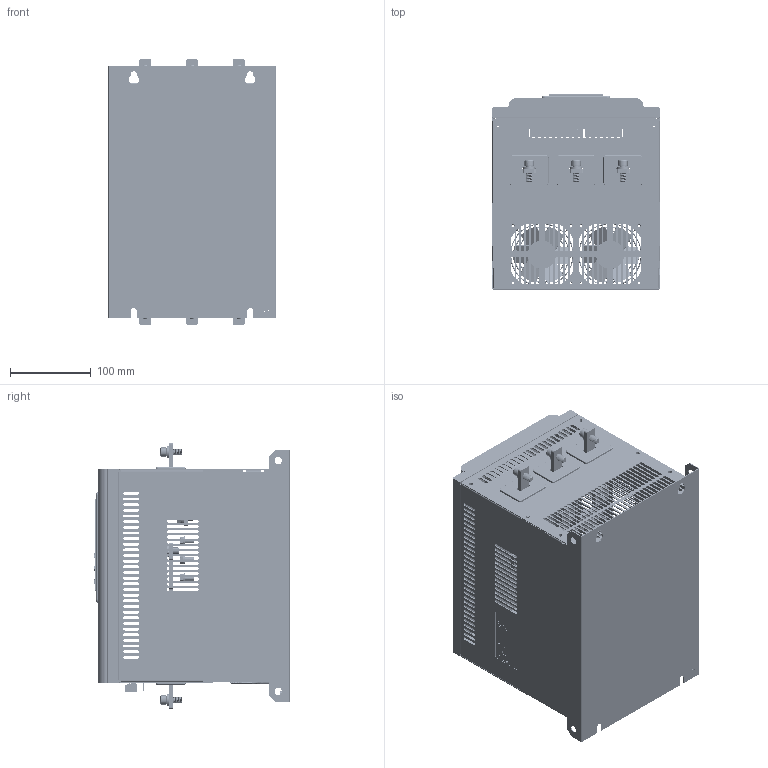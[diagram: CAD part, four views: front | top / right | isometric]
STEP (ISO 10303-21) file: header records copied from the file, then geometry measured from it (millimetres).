
FILE_DESCRIPTION((''),'2;1');
FILE_NAME('1-NJR5-55KW_ASM_ASM','2021-09-27T13:50:15',('ruanmm'),(''),'CREO PARAMETRIC BY PTC INC, 2020044','CREO PARAMETRIC BY PTC INC, 2020044','');
FILE_SCHEMA(('CONFIG_CONTROL_DESIGN','SHAPE_APPEARANCE_LAYERS_GROUPS'));
Products named in the file (114): NJR3-F2-WK-1__1; S-M4-2__1; NJR3-F1-E__1_1; NJR3-F1-E__1_2; NJR3-F1-E__1_ASM; NJR3-F3-WK-2-ASM_ASM_1_ASM; CHANGZHIJIA_2; CHANGZHIJIA_ASM_1_ASM; NJR3-F2-WK-1-ASM_ASM_1_ASM; S-M4-2__1_3; SOO-M3-8_4_2; FENGDAOBAN_ASM_39_ASM_4_ASM; FENGDAOBAN_ASM_ASM_3_ASM; FENGJIDANGBAN_2; 80FS-75ZX__1; FANZHAO92_1; FENGJIDANGBAN_ASM_2_ASM; NJR3-F2-WK-1__ASM_2_ASM; NJR3-F2-CEB1-2__7; NJR-F2-CEB1-2_ASM_1_ASM; NJR3-F2-CEB1-1__9; NJR3-F2-CEB1-1_ASM_2_ASM; NJR3-F2-JUEYD-1__1; SO-35M3-10_1; TOP-PLATE-A-ASM_ASM_1_ASM; PCB-5-MENG_1_1; NJR-5-PCB-2_1_1; NJR5-QIAO-PCB-22_1_1; PTB750B-03-5-06-3----7-62-4P__2; PTB750B-03-12---5-08-12P__1_1_1; CPU-DIANYUANBAN-ASM_ASM_2-87986_ASM; CPU-DIANYUANBAN-ASM_ASM_2-95454_ASM; DYB-1_ASM_1_ASM; TOP-PLATE-A_ASM_1_ASM; TOP-PLATE-NEW_4_1_1; NED-PL-A_1_1_1; 048119__1_1_1; SHANGGAI-XIN__2_1_1_1_1_1_1; XSP__1_1_1_1_1_1_1; M3TONG__1_1_1_1_1_1_1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
Assembly tree (166 placements, depth 10):
  1-NJR5-55KW_ASM_ASM
    1-NJR5-55KW_ASM_20_ASM
      NJR5-JX_ASM_3_ASM
        NJR3-F2-WK-1__ASM_2_ASM
          NJR3-F2-WK-1-ASM_ASM_1_ASM
            NJR3-F3-WK-2-ASM_ASM_1_ASM
              NJR3-F2-WK-1__1
              S-M4-2__1  x10
              NJR3-F1-E__1_ASM
                NJR3-F1-E__1_1
                NJR3-F1-E__1_2
            CHANGZHIJIA_ASM_1_ASM  x4
              CHANGZHIJIA_2
              S-M4-2__1
          FENGDAOBAN_ASM_ASM_3_ASM
            FENGDAOBAN_ASM_39_ASM_4_ASM
              S-M4-2__1_3  x6
              SOO-M3-8_4_2  x3
          FENGJIDANGBAN_ASM_2_ASM
            FENGJIDANGBAN_2
            S-M4-2__1  x8
            80FS-75ZX__1  x2
            FANZHAO92_1  x2
        NJR-F2-CEB1-2_ASM_1_ASM
          NJR3-F2-CEB1-2__7
        NJR3-F2-CEB1-1_ASM_2_ASM
          NJR3-F2-CEB1-1__9
        NJR3-F2-JUEYD-1__1  x6
        TOP-PLATE-A_ASM_1_ASM
          TOP-PLATE-A-ASM_ASM_1_ASM
            SO-35M3-10_1  x4
          DYB-1_ASM_1_ASM
            CPU-DIANYUANBAN-ASM_ASM_2-95454_ASM
              CPU-DIANYUANBAN-ASM_ASM_2-87986_ASM
                PCB-5-MENG_1_1
                NJR-5-PCB-2_1_1
                NJR5-QIAO-PCB-22_1_1
                PTB750B-03-5-06-3----7-62-4P__2
                PTB750B-03-12---5-08-12P__1_1_1
        ASM0001_ASM_2_ASM
          TOP-PLATE-NEW-ASM_ASM_6_1_ASM_1_ASM
            TOP-PLATE-NEW_4_1_1
            NED-PL-A_1_1_1  x2
            048119__1_1_1
            ASM0003_ASM_1_1_ASM_1_ASM
              ZHONGZHUTU2__ASM_1_ASM_2_1_AS_1_ASM
                SHANGGAI-XIN__2_1_1_1_1_1_1
                XSP__1_1_1_1_1_1_1
                M3TONG__1_1_1_1_1_1_1  x4
                XLB-XIN-3_ASM_1_1_ASM_1_1_ASM_1_ASM
                  XLB-XIN__3_10_1_1_1_1_1
                  PCB-BL_1_1_1_1_1_1
                XIAGAI-XIN__2_1_1_1_1_1_1
                XSGMP-75ZX-M__2_ASM_1_1_ASM_1_1_ASM
                  MANIFOLD_SOLID_BREP_40621_2__31_ASM
                YKL-75ZX__2_2_1_1_1_1_1
            PVC-POST_1_1_1
      MOKUAI_ASM_ASM_1_ASM  x3
        JXTP-75ZX-_1
        PAI-SC_1
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Bounding box: 207 x 241.4 x 328.8 mm (x, y, z)
Volume: 764307.6 mm3; surface area: 982081.4 mm2
Topology: 165 solids, 165 shells, 15987 faces, 44080 edges, 29246 vertices
Faces by surface type: plane 11960, cylinder 2294, extrusion 1155, cone 188, revolution 136, bspline 136, torus 110, sphere 8
Entity records: 408194 total; most frequent: CARTESIAN_POINT 79702, ORIENTED_EDGE 52460, DIRECTION 44712, EDGE_CURVE 26230, VECTOR 21758, PRESENTATION_STYLE_ASSIGNMENT 21130, STYLED_ITEM 21130, LINE 20619
